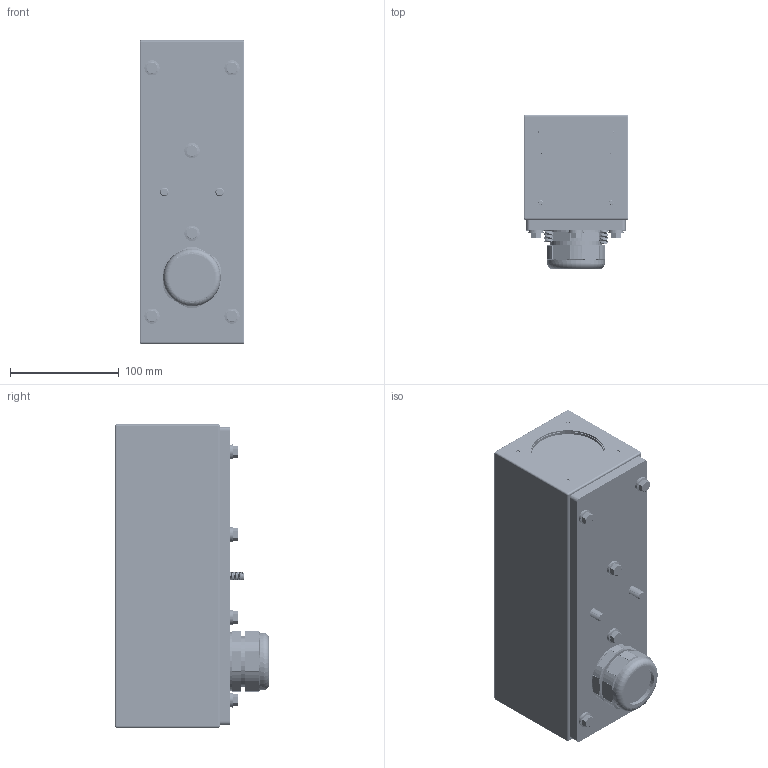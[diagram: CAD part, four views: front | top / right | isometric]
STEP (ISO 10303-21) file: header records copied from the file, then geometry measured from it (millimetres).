
FILE_DESCRIPTION (( 'STEP AP203' ), '1' );
FILE_NAME ('38S-BB.STEP', '2022-05-26T17:36:29', ( '' ), ( '' ), 'SwSTEP 2.0', 'SolidWorks 2021', '' );
FILE_SCHEMA (( 'CONFIG_CONTROL_DESIGN' ));
Length unit declared in the file: inch
Products named in the file (26): 92240A535_92240A535; PG36-N03; 400101; 200369; 800007; SP-M6-1; 93635A318; PG36-I01; 93625A250_93625A250; 200306; PG36-01-01-02-03; 200309; 9452K15; 400103; 201145; 200307; PG36-S02; PG36-B01; 800006; 500100; 800006_BOM; 94709A417; 800001; 38S-BB; 93625A200; 400100
Assembly tree (47 placements, depth 3):
  38S-BB
    200306
      200307
      SP-M6-1  x4
      800001  x4
    200369
    400100
    201145
    500100
    400101
    200309
    93625A200  x4
    800006  x4
      800007
      400103
    92240A535_92240A535  x2
    800006_BOM  x2
      800007
      400103
    93625A250_93625A250  x2
    94709A417  x2
    93635A318  x2
    9452K15  x4
    PG36-01-01-02-03
      PG36-B01
      PG36-I01
      PG36-S02
      PG36-N03
Bounding box: 96.52 x 141.63 x 279.4 mm (x, y, z)
Volume: 511259.8 mm3; surface area: 387561.9 mm2
Topology: 56 solids, 56 shells, 2051 faces, 5309 edges, 3411 vertices
Faces by surface type: cylinder 1035, plane 575, cone 318, bspline 54, torus 49, sphere 20
Entity records: 43095 total; most frequent: CARTESIAN_POINT 18672, ORIENTED_EDGE 4558, DIRECTION 4274, EDGE_CURVE 2279, AXIS2_PLACEMENT_3D 1639, VERTEX_POINT 1452, EDGE_LOOP 1009, VECTOR 996
